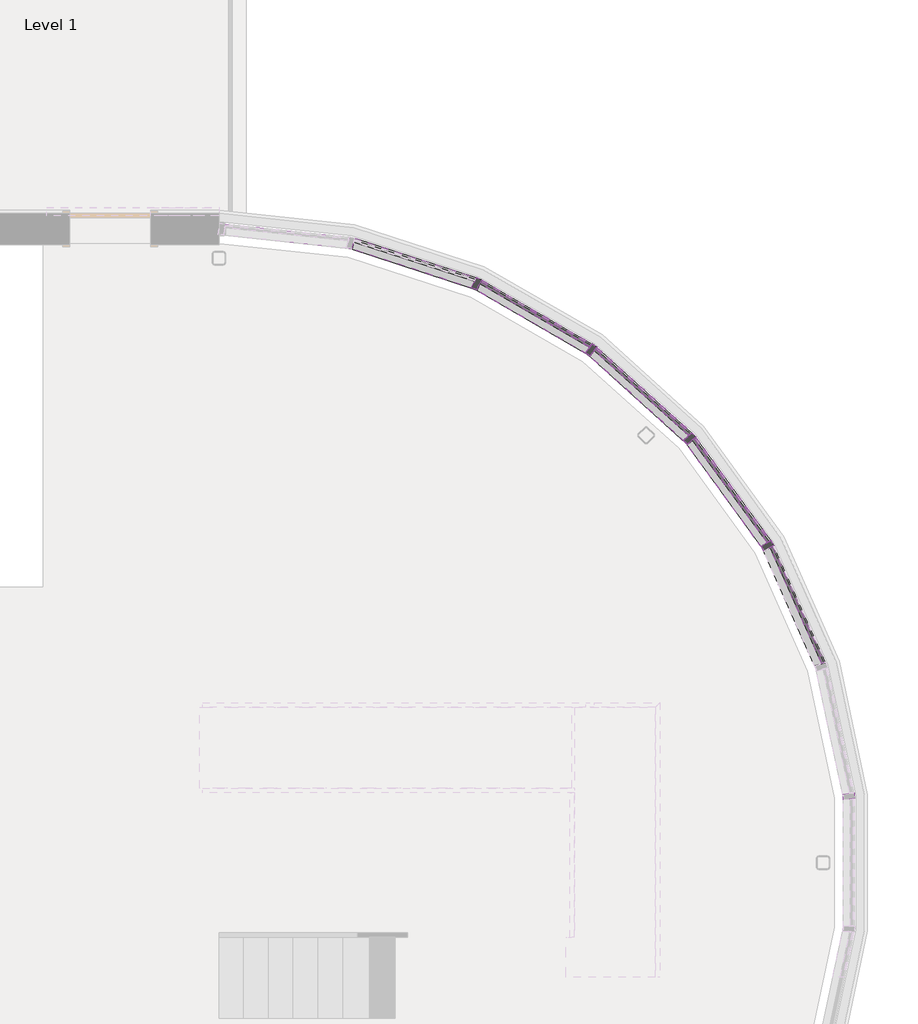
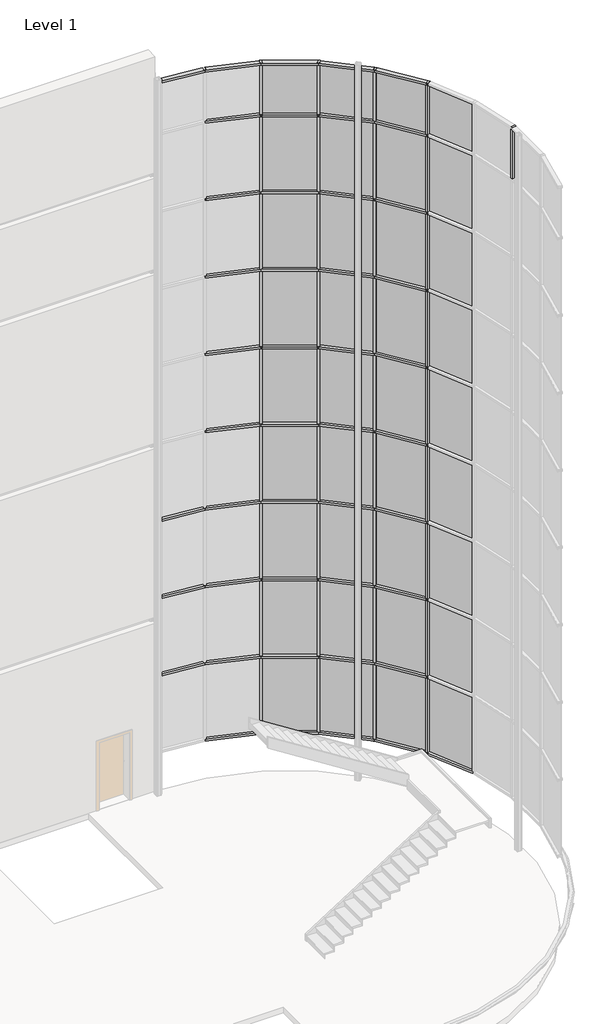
# One storey, part 13 of 16: 82 members, 36 plates.
"""IFC4 building model written with IfcOpenShell, lengths in millimetres."""

from ifc_helpers import new_model, si_unit, origin, place, context, project, spatial, transform, mapped, element, save
from components import member_165ff730, member_45463520, member_408f6c1a, member_1666ebf7, member_f0fea5a5, member_788d4f16, system_panel_glazed_294e175a, system_panel_glazed_36605c35, system_panel_glazed_41a16be2

model = new_model("IFC4")

# Units and contexts
model_context = context("Model", 3, world=origin())
ifc_project = project(units=[si_unit("LENGTHUNIT", "METRE", prefix="MILLI")], contexts=[model_context])

# Site, building, storey
site = spatial("IfcSite", under=ifc_project)
building = spatial("IfcBuilding", under=site)
storey = spatial("IfcBuildingStorey", under=building, Name="Level 1", Elevation=0.0)

# Members
placement = place(None, origin())
member_shape = member_165ff730(model_context)
element("IfcMember", 1, ObjectType="Rectangular Mullion : 2.5\" x 5\" rectangular", at=placement, inside=storey, context=model_context, shape_type="MappedRepresentation", body=[
    mapped(member_shape, transform((16551.9651367, 12415.4009844, 22250.4), x_axis=(0.0, 0.0, 1.0), y_axis=(-0.10452846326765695, -0.994521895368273, 0.0), z_axis=(0.994521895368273, -0.10452846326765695, 0.0))),
])
member_2_shape = member_45463520(model_context)
element("IfcMember", 2, ObjectType="Rectangular Mullion : 2.5\" x 5\" rectangular", at=placement, inside=storey, context=model_context, shape_type="MappedRepresentation", body=[
    mapped(member_2_shape, transform((17972.7540113, 11960.6996033, 22250.4), x_axis=(0.0, 0.0, 1.0), y_axis=(-0.30901699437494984, -0.9510565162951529, 0.0), z_axis=(0.9510565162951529, -0.30901699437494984, 0.0))),
])
element("IfcMember", 3, ObjectType="Rectangular Mullion : 2.5\" x 5\" rectangular", at=placement, inside=storey, context=model_context, shape_type="MappedRepresentation", body=[
    mapped(member_2_shape, transform((19267.9575073, 11220.535921, 22250.4), x_axis=(0.0, 0.0, 1.0), y_axis=(-0.5000000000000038, -0.8660254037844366, 0.0), z_axis=(0.8660254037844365, -0.5000000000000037, 0.0))),
])
element("IfcMember", 4, ObjectType="Rectangular Mullion : 2.5\" x 5\" rectangular", at=placement, inside=storey, context=model_context, shape_type="MappedRepresentation", body=[
    mapped(member_2_shape, transform((20380.9690166, 10227.2586423, 22250.4), x_axis=(0.0, 0.0, 1.0), y_axis=(-0.6691306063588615, -0.7431448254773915, 0.0), z_axis=(0.7431448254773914, -0.6691306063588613, 0.0))),
])
element("IfcMember", 5, ObjectType="Rectangular Mullion : 2.5\" x 5\" rectangular", at=placement, inside=storey, context=model_context, shape_type="MappedRepresentation", body=[
    mapped(member_2_shape, transform((21263.1445956, 9024.2787505, 22250.4), x_axis=(0.0, 0.0, 1.0), y_axis=(-0.8090169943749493, -0.5877852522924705, 0.0), z_axis=(0.5877852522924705, -0.8090169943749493, 0.0))),
])
element("IfcMember", 6, ObjectType="Rectangular Mullion : 2.5\" x 5\" rectangular", at=placement, inside=storey, context=model_context, shape_type="MappedRepresentation", body=[
    mapped(member_2_shape, transform((16613.7372513, 12402.2709161, 1092.2), x_axis=(0.0, 0.0, -1.0), y_axis=(-0.3090169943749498, -0.9510565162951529, 0.0), z_axis=(-0.9510565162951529, 0.3090169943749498, 0.0))),
])
element("IfcMember", 7, ObjectType="Rectangular Mullion : 2.5\" x 5\" rectangular", at=placement, inside=storey, context=model_context, shape_type="MappedRepresentation", body=[
    mapped(member_2_shape, transform((18030.4463623, 11935.0133137, 1092.2), x_axis=(0.0, 0.0, -1.0), y_axis=(-0.500000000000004, -0.8660254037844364, 0.0), z_axis=(-0.8660254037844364, 0.500000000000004, 0.0))),
])
element("IfcMember", 8, ObjectType="Rectangular Mullion : 2.5\" x 5\" rectangular", at=placement, inside=storey, context=model_context, shape_type="MappedRepresentation", body=[
    mapped(member_2_shape, transform((19319.048662, 11183.4160243, 1092.2), x_axis=(0.0, 0.0, -1.0), y_axis=(-0.6691306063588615, -0.7431448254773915, 0.0), z_axis=(-0.7431448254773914, 0.6691306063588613, 0.0))),
])
element("IfcMember", 9, ObjectType="Rectangular Mullion : 2.5\" x 5\" rectangular", at=placement, inside=storey, context=model_context, shape_type="MappedRepresentation", body=[
    mapped(member_2_shape, transform((20423.2260466, 10180.327456, 1092.2), x_axis=(0.0, 0.0, -1.0), y_axis=(-0.8090169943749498, -0.58778525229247, 0.0), z_axis=(-0.5877852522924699, 0.8090169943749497, 0.0))),
])
element("IfcMember", 10, ObjectType="Rectangular Mullion : 2.5\" x 5\" rectangular", at=placement, inside=storey, context=model_context, shape_type="MappedRepresentation", body=[
    mapped(member_2_shape, transform((21294.7206657, 8969.5873926, 1092.2), x_axis=(0.0, 0.0, -1.0), y_axis=(-0.9135454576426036, -0.4067366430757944, 0.0), z_axis=(-0.4067366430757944, 0.9135454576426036, 0.0))),
])
member_3_shape = member_408f6c1a(model_context)
element("IfcMember", 11, ObjectType="Rectangular Mullion : 2.5\" x 5\" rectangular", at=placement, inside=storey, context=model_context, shape_type="MappedRepresentation", body=[
    mapped(member_3_shape, transform((16551.9651367, 12415.4009844, 3530.6), x_axis=(0.0, 0.0, 1.0), y_axis=(-0.10452846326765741, -0.994521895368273, 0.0), z_axis=(0.994521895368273, -0.10452846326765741, 0.0))),
])
element("IfcMember", 12, ObjectType="Rectangular Mullion : 2.5\" x 5\" rectangular", at=placement, inside=storey, context=model_context, shape_type="MappedRepresentation", body=[
    mapped(member_3_shape, transform((16551.9651367, 12415.4009844, 5969.0), x_axis=(0.0, 0.0, 1.0), y_axis=(-0.10452846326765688, -0.9945218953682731, 0.0), z_axis=(0.9945218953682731, -0.10452846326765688, 0.0))),
])
element("IfcMember", 13, ObjectType="Rectangular Mullion : 2.5\" x 5\" rectangular", at=placement, inside=storey, context=model_context, shape_type="MappedRepresentation", body=[
    mapped(member_3_shape, transform((16551.9651367, 12415.4009844, 8407.4), x_axis=(0.0, 0.0, 1.0), y_axis=(-0.10452846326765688, -0.9945218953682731, 0.0), z_axis=(0.9945218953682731, -0.10452846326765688, 0.0))),
])
member_4_shape = member_1666ebf7(model_context)
element("IfcMember", 14, ObjectType="Rectangular Mullion : 2.5\" x 5\" rectangular", at=placement, inside=storey, context=model_context, shape_type="MappedRepresentation", body=[
    mapped(member_4_shape, transform((17972.7540113, 11960.6996033, 3530.6), x_axis=(0.0, 0.0, 1.0), y_axis=(-0.3090169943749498, -0.9510565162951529, 0.0), z_axis=(0.9510565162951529, -0.3090169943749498, 0.0))),
])
element("IfcMember", 15, ObjectType="Rectangular Mullion : 2.5\" x 5\" rectangular", at=placement, inside=storey, context=model_context, shape_type="MappedRepresentation", body=[
    mapped(member_4_shape, transform((19267.9575073, 11220.535921, 3530.6), x_axis=(0.0, 0.0, 1.0), y_axis=(-0.500000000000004, -0.8660254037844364, 0.0), z_axis=(0.8660254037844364, -0.500000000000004, 0.0))),
])
element("IfcMember", 16, ObjectType="Rectangular Mullion : 2.5\" x 5\" rectangular", at=placement, inside=storey, context=model_context, shape_type="MappedRepresentation", body=[
    mapped(member_4_shape, transform((20380.9690166, 10227.2586423, 3530.6), x_axis=(0.0, 0.0, 1.0), y_axis=(-0.6691306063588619, -0.7431448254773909, 0.0), z_axis=(0.7431448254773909, -0.6691306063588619, 0.0))),
])
element("IfcMember", 17, ObjectType="Rectangular Mullion : 2.5\" x 5\" rectangular", at=placement, inside=storey, context=model_context, shape_type="MappedRepresentation", body=[
    mapped(member_4_shape, transform((21263.1445956, 9024.2787505, 3530.6), x_axis=(0.0, 0.0, 1.0), y_axis=(-0.8090169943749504, -0.5877852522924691, 0.0), z_axis=(0.587785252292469, -0.8090169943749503, 0.0))),
])
element("IfcMember", 18, ObjectType="Rectangular Mullion : 2.5\" x 5\" rectangular", at=placement, inside=storey, context=model_context, shape_type="MappedRepresentation", body=[
    mapped(member_4_shape, transform((17972.7540113, 11960.6996033, 5969.0), x_axis=(0.0, 0.0, 1.0), y_axis=(-0.3090169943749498, -0.9510565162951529, 0.0), z_axis=(0.9510565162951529, -0.3090169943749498, 0.0))),
])
element("IfcMember", 19, ObjectType="Rectangular Mullion : 2.5\" x 5\" rectangular", at=placement, inside=storey, context=model_context, shape_type="MappedRepresentation", body=[
    mapped(member_4_shape, transform((19267.9575073, 11220.535921, 5969.0), x_axis=(0.0, 0.0, 1.0), y_axis=(-0.500000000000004, -0.8660254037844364, 0.0), z_axis=(0.8660254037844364, -0.500000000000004, 0.0))),
])
element("IfcMember", 20, ObjectType="Rectangular Mullion : 2.5\" x 5\" rectangular", at=placement, inside=storey, context=model_context, shape_type="MappedRepresentation", body=[
    mapped(member_4_shape, transform((20380.9690166, 10227.2586423, 5969.0), x_axis=(0.0, 0.0, 1.0), y_axis=(-0.6691306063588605, -0.7431448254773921, 0.0), z_axis=(0.7431448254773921, -0.6691306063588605, 0.0))),
])
element("IfcMember", 21, ObjectType="Rectangular Mullion : 2.5\" x 5\" rectangular", at=placement, inside=storey, context=model_context, shape_type="MappedRepresentation", body=[
    mapped(member_4_shape, transform((21263.1445956, 9024.2787505, 5969.0), x_axis=(0.0, 0.0, 1.0), y_axis=(-0.8090169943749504, -0.5877852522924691, 0.0), z_axis=(0.587785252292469, -0.8090169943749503, 0.0))),
])
element("IfcMember", 22, ObjectType="Rectangular Mullion : 2.5\" x 5\" rectangular", at=placement, inside=storey, context=model_context, shape_type="MappedRepresentation", body=[
    mapped(member_4_shape, transform((17972.7540113, 11960.6996033, 8407.4), x_axis=(0.0, 0.0, 1.0), y_axis=(-0.3090169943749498, -0.9510565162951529, 0.0), z_axis=(0.9510565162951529, -0.3090169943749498, 0.0))),
])
element("IfcMember", 23, ObjectType="Rectangular Mullion : 2.5\" x 5\" rectangular", at=placement, inside=storey, context=model_context, shape_type="MappedRepresentation", body=[
    mapped(member_4_shape, transform((19267.9575073, 11220.535921, 8407.4), x_axis=(0.0, 0.0, 1.0), y_axis=(-0.500000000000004, -0.8660254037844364, 0.0), z_axis=(0.8660254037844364, -0.500000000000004, 0.0))),
])
element("IfcMember", 24, ObjectType="Rectangular Mullion : 2.5\" x 5\" rectangular", at=placement, inside=storey, context=model_context, shape_type="MappedRepresentation", body=[
    mapped(member_4_shape, transform((20380.9690166, 10227.2586423, 8407.4), x_axis=(0.0, 0.0, 1.0), y_axis=(-0.6691306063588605, -0.7431448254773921, 0.0), z_axis=(0.7431448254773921, -0.6691306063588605, 0.0))),
])
element("IfcMember", 25, ObjectType="Rectangular Mullion : 2.5\" x 5\" rectangular", at=placement, inside=storey, context=model_context, shape_type="MappedRepresentation", body=[
    mapped(member_4_shape, transform((21263.1445956, 9024.2787505, 8407.4), x_axis=(0.0, 0.0, 1.0), y_axis=(-0.8090169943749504, -0.5877852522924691, 0.0), z_axis=(0.587785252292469, -0.8090169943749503, 0.0))),
])
element("IfcMember", 26, ObjectType="Rectangular Mullion : 2.5\" x 5\" rectangular", at=placement, inside=storey, context=model_context, shape_type="MappedRepresentation", body=[
    mapped(member_4_shape, transform((17972.7540113, 11960.6996033, 10845.8), x_axis=(0.0, 0.0, 1.0), y_axis=(-0.3090169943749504, -0.9510565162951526, 0.0), z_axis=(0.9510565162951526, -0.3090169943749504, 0.0))),
])
element("IfcMember", 27, ObjectType="Rectangular Mullion : 2.5\" x 5\" rectangular", at=placement, inside=storey, context=model_context, shape_type="MappedRepresentation", body=[
    mapped(member_4_shape, transform((19267.9575073, 11220.535921, 10845.8), x_axis=(0.0, 0.0, 1.0), y_axis=(-0.500000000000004, -0.8660254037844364, 0.0), z_axis=(0.8660254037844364, -0.500000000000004, 0.0))),
])
element("IfcMember", 28, ObjectType="Rectangular Mullion : 2.5\" x 5\" rectangular", at=placement, inside=storey, context=model_context, shape_type="MappedRepresentation", body=[
    mapped(member_4_shape, transform((20380.9690166, 10227.2586423, 10845.8), x_axis=(0.0, 0.0, 1.0), y_axis=(-0.6691306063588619, -0.7431448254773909, 0.0), z_axis=(0.7431448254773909, -0.6691306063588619, 0.0))),
])
element("IfcMember", 29, ObjectType="Rectangular Mullion : 2.5\" x 5\" rectangular", at=placement, inside=storey, context=model_context, shape_type="MappedRepresentation", body=[
    mapped(member_4_shape, transform((21263.1445956, 9024.2787505, 10845.8), x_axis=(0.0, 0.0, 1.0), y_axis=(-0.8090169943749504, -0.5877852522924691, 0.0), z_axis=(0.587785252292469, -0.8090169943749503, 0.0))),
])
element("IfcMember", 30, ObjectType="Rectangular Mullion : 2.5\" x 5\" rectangular", at=placement, inside=storey, context=model_context, shape_type="MappedRepresentation", body=[
    mapped(member_4_shape, transform((17972.7540113, 11960.6996033, 13284.2), x_axis=(0.0, 0.0, 1.0), y_axis=(-0.3090169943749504, -0.9510565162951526, 0.0), z_axis=(0.9510565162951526, -0.3090169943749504, 0.0))),
])
element("IfcMember", 31, ObjectType="Rectangular Mullion : 2.5\" x 5\" rectangular", at=placement, inside=storey, context=model_context, shape_type="MappedRepresentation", body=[
    mapped(member_4_shape, transform((19267.9575073, 11220.535921, 13284.2), x_axis=(0.0, 0.0, 1.0), y_axis=(-0.500000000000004, -0.8660254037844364, 0.0), z_axis=(0.8660254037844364, -0.500000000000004, 0.0))),
])
element("IfcMember", 32, ObjectType="Rectangular Mullion : 2.5\" x 5\" rectangular", at=placement, inside=storey, context=model_context, shape_type="MappedRepresentation", body=[
    mapped(member_4_shape, transform((20380.9690166, 10227.2586423, 13284.2), x_axis=(0.0, 0.0, 1.0), y_axis=(-0.6691306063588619, -0.7431448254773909, 0.0), z_axis=(0.7431448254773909, -0.6691306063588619, 0.0))),
])
element("IfcMember", 33, ObjectType="Rectangular Mullion : 2.5\" x 5\" rectangular", at=placement, inside=storey, context=model_context, shape_type="MappedRepresentation", body=[
    mapped(member_4_shape, transform((21263.1445956, 9024.2787505, 13284.2), x_axis=(0.0, 0.0, 1.0), y_axis=(-0.8090169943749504, -0.5877852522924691, 0.0), z_axis=(0.587785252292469, -0.8090169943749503, 0.0))),
])
element("IfcMember", 34, ObjectType="Rectangular Mullion : 2.5\" x 5\" rectangular", at=placement, inside=storey, context=model_context, shape_type="MappedRepresentation", body=[
    mapped(member_4_shape, transform((17972.7540113, 11960.6996033, 15722.6), x_axis=(0.0, 0.0, 1.0), y_axis=(-0.3090169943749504, -0.9510565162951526, 0.0), z_axis=(0.9510565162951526, -0.3090169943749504, 0.0))),
])
element("IfcMember", 35, ObjectType="Rectangular Mullion : 2.5\" x 5\" rectangular", at=placement, inside=storey, context=model_context, shape_type="MappedRepresentation", body=[
    mapped(member_4_shape, transform((19267.9575073, 11220.535921, 15722.6), x_axis=(0.0, 0.0, 1.0), y_axis=(-0.500000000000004, -0.8660254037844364, 0.0), z_axis=(0.8660254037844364, -0.500000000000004, 0.0))),
])
element("IfcMember", 36, ObjectType="Rectangular Mullion : 2.5\" x 5\" rectangular", at=placement, inside=storey, context=model_context, shape_type="MappedRepresentation", body=[
    mapped(member_4_shape, transform((20380.9690166, 10227.2586423, 15722.6), x_axis=(0.0, 0.0, 1.0), y_axis=(-0.6691306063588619, -0.7431448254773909, 0.0), z_axis=(0.7431448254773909, -0.6691306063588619, 0.0))),
])
element("IfcMember", 37, ObjectType="Rectangular Mullion : 2.5\" x 5\" rectangular", at=placement, inside=storey, context=model_context, shape_type="MappedRepresentation", body=[
    mapped(member_4_shape, transform((21263.1445956, 9024.2787505, 15722.6), x_axis=(0.0, 0.0, 1.0), y_axis=(-0.8090169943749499, -0.5877852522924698, 0.0), z_axis=(0.5877852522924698, -0.8090169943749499, 0.0))),
])
element("IfcMember", 38, ObjectType="Rectangular Mullion : 2.5\" x 5\" rectangular", at=placement, inside=storey, context=model_context, shape_type="MappedRepresentation", body=[
    mapped(member_4_shape, transform((17972.7540113, 11960.6996033, 18161.0), x_axis=(0.0, 0.0, 1.0), y_axis=(-0.3090169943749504, -0.9510565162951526, 0.0), z_axis=(0.9510565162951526, -0.3090169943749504, 0.0))),
])
element("IfcMember", 39, ObjectType="Rectangular Mullion : 2.5\" x 5\" rectangular", at=placement, inside=storey, context=model_context, shape_type="MappedRepresentation", body=[
    mapped(member_4_shape, transform((19267.9575073, 11220.535921, 18161.0), x_axis=(0.0, 0.0, 1.0), y_axis=(-0.500000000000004, -0.8660254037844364, 0.0), z_axis=(0.8660254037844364, -0.500000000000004, 0.0))),
])
element("IfcMember", 40, ObjectType="Rectangular Mullion : 2.5\" x 5\" rectangular", at=placement, inside=storey, context=model_context, shape_type="MappedRepresentation", body=[
    mapped(member_4_shape, transform((20380.9690166, 10227.2586423, 18161.0), x_axis=(0.0, 0.0, 1.0), y_axis=(-0.6691306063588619, -0.7431448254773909, 0.0), z_axis=(0.7431448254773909, -0.6691306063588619, 0.0))),
])
element("IfcMember", 41, ObjectType="Rectangular Mullion : 2.5\" x 5\" rectangular", at=placement, inside=storey, context=model_context, shape_type="MappedRepresentation", body=[
    mapped(member_4_shape, transform((21263.1445956, 9024.2787505, 18161.0), x_axis=(0.0, 0.0, 1.0), y_axis=(-0.8090169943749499, -0.5877852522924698, 0.0), z_axis=(0.5877852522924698, -0.8090169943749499, 0.0))),
])
element("IfcMember", 42, ObjectType="Rectangular Mullion : 2.5\" x 5\" rectangular", at=placement, inside=storey, context=model_context, shape_type="MappedRepresentation", body=[
    mapped(member_4_shape, transform((17972.7540113, 11960.6996033, 20599.4), x_axis=(0.0, 0.0, 1.0), y_axis=(-0.3090169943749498, -0.9510565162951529, 0.0), z_axis=(0.9510565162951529, -0.3090169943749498, 0.0))),
])
element("IfcMember", 43, ObjectType="Rectangular Mullion : 2.5\" x 5\" rectangular", at=placement, inside=storey, context=model_context, shape_type="MappedRepresentation", body=[
    mapped(member_4_shape, transform((19267.9575073, 11220.535921, 20599.4), x_axis=(0.0, 0.0, 1.0), y_axis=(-0.500000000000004, -0.8660254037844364, 0.0), z_axis=(0.8660254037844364, -0.500000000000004, 0.0))),
])
element("IfcMember", 44, ObjectType="Rectangular Mullion : 2.5\" x 5\" rectangular", at=placement, inside=storey, context=model_context, shape_type="MappedRepresentation", body=[
    mapped(member_4_shape, transform((20380.9690166, 10227.2586423, 20599.4), x_axis=(0.0, 0.0, 1.0), y_axis=(-0.6691306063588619, -0.7431448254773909, 0.0), z_axis=(0.7431448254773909, -0.6691306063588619, 0.0))),
])
element("IfcMember", 45, ObjectType="Rectangular Mullion : 2.5\" x 5\" rectangular", at=placement, inside=storey, context=model_context, shape_type="MappedRepresentation", body=[
    mapped(member_4_shape, transform((21263.1445956, 9024.2787505, 20599.4), x_axis=(0.0, 0.0, 1.0), y_axis=(-0.8090169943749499, -0.5877852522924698, 0.0), z_axis=(0.5877852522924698, -0.8090169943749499, 0.0))),
])
member_5_shape = member_f0fea5a5(model_context)
element("IfcMember", 46, ObjectType="Rectangular Mullion : 2.5\" x 5\" rectangular", at=placement, inside=storey, context=model_context, shape_type="MappedRepresentation", body=[
    mapped(member_5_shape, transform((18002.9500557, 11950.8883137, 1092.2), x_axis=(0.913545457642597, -0.40673664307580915, 0.0), y_axis=(-0.40673664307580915, -0.913545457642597, 0.0), z_axis=(0.0, 0.0, -1.0))),
])
element("IfcMember", 47, ObjectType="Rectangular Mullion : 2.5\" x 5\" rectangular", at=placement, inside=storey, context=model_context, shape_type="MappedRepresentation", body=[
    mapped(member_5_shape, transform((19295.4538138, 11204.660921, 1092.2), x_axis=(0.809016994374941, -0.587785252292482, 0.0), y_axis=(-0.587785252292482, -0.809016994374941, 0.0), z_axis=(0.0, 0.0, -1.0))),
])
element("IfcMember", 48, ObjectType="Rectangular Mullion : 2.5\" x 5\" rectangular", at=placement, inside=storey, context=model_context, shape_type="MappedRepresentation", body=[
    mapped(member_5_shape, transform((20404.5638648, 10206.0137456, 1092.2), x_axis=(0.6691306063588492, -0.7431448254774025, 0.0), y_axis=(-0.7431448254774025, -0.6691306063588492, 0.0), z_axis=(0.0, 0.0, -1.0))),
])
element("IfcMember", 49, ObjectType="Rectangular Mullion : 2.5\" x 5\" rectangular", at=placement, inside=storey, context=model_context, shape_type="MappedRepresentation", body=[
    mapped(member_5_shape, transform((21281.8067773, 8998.5924609, 1092.2), x_axis=(0.49999999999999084, -0.866025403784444, 0.0), y_axis=(-0.866025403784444, -0.49999999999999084, 0.0), z_axis=(0.0, 0.0, -1.0))),
])
element("IfcMember", 50, ObjectType="Rectangular Mullion : 2.5\" x 5\" rectangular", at=placement, inside=storey, context=model_context, shape_type="MappedRepresentation", body=[
    mapped(member_5_shape, transform((18002.9500557, 11950.8883137, 3530.6), x_axis=(0.913545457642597, -0.40673664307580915, 0.0), y_axis=(-0.40673664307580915, -0.913545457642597, 0.0), z_axis=(0.0, 0.0, -1.0))),
])
element("IfcMember", 51, ObjectType="Rectangular Mullion : 2.5\" x 5\" rectangular", at=placement, inside=storey, context=model_context, shape_type="MappedRepresentation", body=[
    mapped(member_5_shape, transform((19295.4538138, 11204.660921, 3530.6), x_axis=(0.809016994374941, -0.587785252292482, 0.0), y_axis=(-0.587785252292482, -0.809016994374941, 0.0), z_axis=(0.0, 0.0, -1.0))),
])
element("IfcMember", 52, ObjectType="Rectangular Mullion : 2.5\" x 5\" rectangular", at=placement, inside=storey, context=model_context, shape_type="MappedRepresentation", body=[
    mapped(member_5_shape, transform((20404.5638648, 10206.0137456, 3530.6), x_axis=(0.6691306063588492, -0.7431448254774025, 0.0), y_axis=(-0.7431448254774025, -0.6691306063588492, 0.0), z_axis=(0.0, 0.0, -1.0))),
])
element("IfcMember", 53, ObjectType="Rectangular Mullion : 2.5\" x 5\" rectangular", at=placement, inside=storey, context=model_context, shape_type="MappedRepresentation", body=[
    mapped(member_5_shape, transform((21281.8067773, 8998.5924609, 3530.6), x_axis=(0.49999999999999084, -0.866025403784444, 0.0), y_axis=(-0.866025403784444, -0.49999999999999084, 0.0), z_axis=(0.0, 0.0, -1.0))),
])
element("IfcMember", 54, ObjectType="Rectangular Mullion : 2.5\" x 5\" rectangular", at=placement, inside=storey, context=model_context, shape_type="MappedRepresentation", body=[
    mapped(member_5_shape, transform((18002.9500557, 11950.8883137, 5969.0), x_axis=(0.913545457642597, -0.40673664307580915, 0.0), y_axis=(-0.40673664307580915, -0.913545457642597, 0.0), z_axis=(0.0, 0.0, -1.0))),
])
element("IfcMember", 55, ObjectType="Rectangular Mullion : 2.5\" x 5\" rectangular", at=placement, inside=storey, context=model_context, shape_type="MappedRepresentation", body=[
    mapped(member_5_shape, transform((19295.4538138, 11204.660921, 5969.0), x_axis=(0.809016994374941, -0.587785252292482, 0.0), y_axis=(-0.587785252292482, -0.809016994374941, 0.0), z_axis=(0.0, 0.0, -1.0))),
])
element("IfcMember", 56, ObjectType="Rectangular Mullion : 2.5\" x 5\" rectangular", at=placement, inside=storey, context=model_context, shape_type="MappedRepresentation", body=[
    mapped(member_5_shape, transform((20404.5638648, 10206.0137456, 5969.0), x_axis=(0.6691306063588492, -0.7431448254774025, 0.0), y_axis=(-0.7431448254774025, -0.6691306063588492, 0.0), z_axis=(0.0, 0.0, -1.0))),
])
element("IfcMember", 57, ObjectType="Rectangular Mullion : 2.5\" x 5\" rectangular", at=placement, inside=storey, context=model_context, shape_type="MappedRepresentation", body=[
    mapped(member_5_shape, transform((21281.8067773, 8998.5924609, 5969.0), x_axis=(0.49999999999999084, -0.866025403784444, 0.0), y_axis=(-0.866025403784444, -0.49999999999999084, 0.0), z_axis=(0.0, 0.0, -1.0))),
])
element("IfcMember", 58, ObjectType="Rectangular Mullion : 2.5\" x 5\" rectangular", at=placement, inside=storey, context=model_context, shape_type="MappedRepresentation", body=[
    mapped(member_5_shape, transform((18002.9500557, 11950.8883137, 8407.4), x_axis=(0.913545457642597, -0.40673664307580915, 0.0), y_axis=(-0.40673664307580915, -0.913545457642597, 0.0), z_axis=(0.0, 0.0, -1.0))),
])
element("IfcMember", 59, ObjectType="Rectangular Mullion : 2.5\" x 5\" rectangular", at=placement, inside=storey, context=model_context, shape_type="MappedRepresentation", body=[
    mapped(member_5_shape, transform((19295.4538138, 11204.660921, 8407.4), x_axis=(0.809016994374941, -0.587785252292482, 0.0), y_axis=(-0.587785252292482, -0.809016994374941, 0.0), z_axis=(0.0, 0.0, -1.0))),
])
element("IfcMember", 60, ObjectType="Rectangular Mullion : 2.5\" x 5\" rectangular", at=placement, inside=storey, context=model_context, shape_type="MappedRepresentation", body=[
    mapped(member_5_shape, transform((20404.5638648, 10206.0137456, 8407.4), x_axis=(0.6691306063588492, -0.7431448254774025, 0.0), y_axis=(-0.7431448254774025, -0.6691306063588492, 0.0), z_axis=(0.0, 0.0, -1.0))),
])
element("IfcMember", 61, ObjectType="Rectangular Mullion : 2.5\" x 5\" rectangular", at=placement, inside=storey, context=model_context, shape_type="MappedRepresentation", body=[
    mapped(member_5_shape, transform((21281.8067773, 8998.5924609, 8407.4), x_axis=(0.49999999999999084, -0.866025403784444, 0.0), y_axis=(-0.866025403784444, -0.49999999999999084, 0.0), z_axis=(0.0, 0.0, -1.0))),
])
element("IfcMember", 62, ObjectType="Rectangular Mullion : 2.5\" x 5\" rectangular", at=placement, inside=storey, context=model_context, shape_type="MappedRepresentation", body=[
    mapped(member_5_shape, transform((18002.9500557, 11950.8883137, 10845.8), x_axis=(0.9135454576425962, -0.40673664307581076, 0.0), y_axis=(-0.40673664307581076, -0.9135454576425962, 0.0), z_axis=(0.0, 0.0, -1.0))),
])
element("IfcMember", 63, ObjectType="Rectangular Mullion : 2.5\" x 5\" rectangular", at=placement, inside=storey, context=model_context, shape_type="MappedRepresentation", body=[
    mapped(member_5_shape, transform((19295.4538138, 11204.660921, 10845.8), x_axis=(0.809016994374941, -0.587785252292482, 0.0), y_axis=(-0.587785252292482, -0.809016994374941, 0.0), z_axis=(0.0, 0.0, -1.0))),
])
element("IfcMember", 64, ObjectType="Rectangular Mullion : 2.5\" x 5\" rectangular", at=placement, inside=storey, context=model_context, shape_type="MappedRepresentation", body=[
    mapped(member_5_shape, transform((20404.5638648, 10206.0137456, 10845.8), x_axis=(0.6691306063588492, -0.7431448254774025, 0.0), y_axis=(-0.7431448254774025, -0.6691306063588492, 0.0), z_axis=(0.0, 0.0, -1.0))),
])
element("IfcMember", 65, ObjectType="Rectangular Mullion : 2.5\" x 5\" rectangular", at=placement, inside=storey, context=model_context, shape_type="MappedRepresentation", body=[
    mapped(member_5_shape, transform((21281.8067773, 8998.5924609, 10845.8), x_axis=(0.49999999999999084, -0.866025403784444, 0.0), y_axis=(-0.866025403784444, -0.49999999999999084, 0.0), z_axis=(0.0, 0.0, -1.0))),
])
element("IfcMember", 66, ObjectType="Rectangular Mullion : 2.5\" x 5\" rectangular", at=placement, inside=storey, context=model_context, shape_type="MappedRepresentation", body=[
    mapped(member_5_shape, transform((18002.9500557, 11950.8883137, 13284.2), x_axis=(0.9135454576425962, -0.40673664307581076, 0.0), y_axis=(-0.40673664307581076, -0.9135454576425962, 0.0), z_axis=(0.0, 0.0, -1.0))),
])
element("IfcMember", 67, ObjectType="Rectangular Mullion : 2.5\" x 5\" rectangular", at=placement, inside=storey, context=model_context, shape_type="MappedRepresentation", body=[
    mapped(member_5_shape, transform((19295.4538138, 11204.660921, 13284.2), x_axis=(0.809016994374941, -0.587785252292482, 0.0), y_axis=(-0.587785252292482, -0.809016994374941, 0.0), z_axis=(0.0, 0.0, -1.0))),
])
element("IfcMember", 68, ObjectType="Rectangular Mullion : 2.5\" x 5\" rectangular", at=placement, inside=storey, context=model_context, shape_type="MappedRepresentation", body=[
    mapped(member_5_shape, transform((20404.5638648, 10206.0137456, 13284.2), x_axis=(0.6691306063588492, -0.7431448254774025, 0.0), y_axis=(-0.7431448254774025, -0.6691306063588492, 0.0), z_axis=(0.0, 0.0, -1.0))),
])
element("IfcMember", 69, ObjectType="Rectangular Mullion : 2.5\" x 5\" rectangular", at=placement, inside=storey, context=model_context, shape_type="MappedRepresentation", body=[
    mapped(member_5_shape, transform((21281.8067773, 8998.5924609, 13284.2), x_axis=(0.49999999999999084, -0.866025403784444, 0.0), y_axis=(-0.866025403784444, -0.49999999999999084, 0.0), z_axis=(0.0, 0.0, -1.0))),
])
element("IfcMember", 70, ObjectType="Rectangular Mullion : 2.5\" x 5\" rectangular", at=placement, inside=storey, context=model_context, shape_type="MappedRepresentation", body=[
    mapped(member_5_shape, transform((18002.9500557, 11950.8883137, 15722.6), x_axis=(0.9135454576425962, -0.40673664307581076, 0.0), y_axis=(-0.40673664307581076, -0.9135454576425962, 0.0), z_axis=(0.0, 0.0, -1.0))),
])
element("IfcMember", 71, ObjectType="Rectangular Mullion : 2.5\" x 5\" rectangular", at=placement, inside=storey, context=model_context, shape_type="MappedRepresentation", body=[
    mapped(member_5_shape, transform((19295.4538138, 11204.660921, 15722.6), x_axis=(0.809016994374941, -0.587785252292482, 0.0), y_axis=(-0.587785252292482, -0.809016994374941, 0.0), z_axis=(0.0, 0.0, -1.0))),
])
element("IfcMember", 72, ObjectType="Rectangular Mullion : 2.5\" x 5\" rectangular", at=placement, inside=storey, context=model_context, shape_type="MappedRepresentation", body=[
    mapped(member_5_shape, transform((20404.5638648, 10206.0137456, 15722.6), x_axis=(0.6691306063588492, -0.7431448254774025, 0.0), y_axis=(-0.7431448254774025, -0.6691306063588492, 0.0), z_axis=(0.0, 0.0, -1.0))),
])
element("IfcMember", 73, ObjectType="Rectangular Mullion : 2.5\" x 5\" rectangular", at=placement, inside=storey, context=model_context, shape_type="MappedRepresentation", body=[
    mapped(member_5_shape, transform((21281.8067773, 8998.5924609, 15722.6), x_axis=(0.49999999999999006, -0.8660254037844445, 0.0), y_axis=(-0.8660254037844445, -0.49999999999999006, 0.0), z_axis=(0.0, 0.0, -1.0))),
])
element("IfcMember", 74, ObjectType="Rectangular Mullion : 2.5\" x 5\" rectangular", at=placement, inside=storey, context=model_context, shape_type="MappedRepresentation", body=[
    mapped(member_5_shape, transform((18002.9500557, 11950.8883137, 18161.0), x_axis=(0.9135454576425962, -0.40673664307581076, 0.0), y_axis=(-0.40673664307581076, -0.9135454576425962, 0.0), z_axis=(0.0, 0.0, -1.0))),
])
element("IfcMember", 75, ObjectType="Rectangular Mullion : 2.5\" x 5\" rectangular", at=placement, inside=storey, context=model_context, shape_type="MappedRepresentation", body=[
    mapped(member_5_shape, transform((19295.4538138, 11204.660921, 18161.0), x_axis=(0.809016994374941, -0.587785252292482, 0.0), y_axis=(-0.587785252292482, -0.809016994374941, 0.0), z_axis=(0.0, 0.0, -1.0))),
])
element("IfcMember", 76, ObjectType="Rectangular Mullion : 2.5\" x 5\" rectangular", at=placement, inside=storey, context=model_context, shape_type="MappedRepresentation", body=[
    mapped(member_5_shape, transform((20404.5638648, 10206.0137456, 18161.0), x_axis=(0.6691306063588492, -0.7431448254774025, 0.0), y_axis=(-0.7431448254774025, -0.6691306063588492, 0.0), z_axis=(0.0, 0.0, -1.0))),
])
element("IfcMember", 77, ObjectType="Rectangular Mullion : 2.5\" x 5\" rectangular", at=placement, inside=storey, context=model_context, shape_type="MappedRepresentation", body=[
    mapped(member_5_shape, transform((21281.8067773, 8998.5924609, 18161.0), x_axis=(0.49999999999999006, -0.8660254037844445, 0.0), y_axis=(-0.8660254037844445, -0.49999999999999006, 0.0), z_axis=(0.0, 0.0, -1.0))),
])
member_6_shape = member_788d4f16(model_context)
element("IfcMember", 78, ObjectType="Rectangular Mullion : 2.5\" x 5\" rectangular", at=placement, inside=storey, context=model_context, shape_type="MappedRepresentation", body=[
    mapped(member_6_shape, transform((18002.9500557, 11950.8883137, 20599.4), x_axis=(0.9135454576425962, -0.40673664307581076, 0.0), y_axis=(-0.40673664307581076, -0.9135454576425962, 0.0), z_axis=(0.0, 0.0, -1.0))),
])
element("IfcMember", 79, ObjectType="Rectangular Mullion : 2.5\" x 5\" rectangular", at=placement, inside=storey, context=model_context, shape_type="MappedRepresentation", body=[
    mapped(member_6_shape, transform((19295.4538138, 11204.660921, 20599.4), x_axis=(0.809016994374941, -0.587785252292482, 0.0), y_axis=(-0.587785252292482, -0.809016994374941, 0.0), z_axis=(0.0, 0.0, -1.0))),
])
element("IfcMember", 80, ObjectType="Rectangular Mullion : 2.5\" x 5\" rectangular", at=placement, inside=storey, context=model_context, shape_type="MappedRepresentation", body=[
    mapped(member_6_shape, transform((20404.5638648, 10206.0137456, 20599.4), x_axis=(0.6691306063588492, -0.7431448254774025, 0.0), y_axis=(-0.7431448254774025, -0.6691306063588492, 0.0), z_axis=(0.0, 0.0, -1.0))),
])
element("IfcMember", 81, ObjectType="Rectangular Mullion : 2.5\" x 5\" rectangular", at=placement, inside=storey, context=model_context, shape_type="MappedRepresentation", body=[
    mapped(member_6_shape, transform((21281.8067773, 8998.5924609, 20599.4), x_axis=(0.49999999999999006, -0.8660254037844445, 0.0), y_axis=(-0.8660254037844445, -0.49999999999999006, 0.0), z_axis=(0.0, 0.0, -1.0))),
])
element("IfcMember", 82, ObjectType="Rectangular Mullion : 2.5\" x 5\" rectangular", at=placement, inside=storey, context=model_context, shape_type="MappedRepresentation", body=[
    mapped(member_6_shape, transform((22199.1416245, 6175.3261036, 20599.4), x_axis=(0.10452846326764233, -0.9945218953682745, 0.0), y_axis=(-0.9945218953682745, -0.10452846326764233, 0.0), z_axis=(0.0, 0.0, -1.0))),
])

# Plates
system_panel_glazed_shape = system_panel_glazed_294e175a(model_context)
element("IfcPlate", 83, ObjectType="System Panel : Glazed", at=placement, inside=storey, context=model_context, shape_type="MappedRepresentation", body=[
    mapped(system_panel_glazed_shape, transform((18649.2019348, 11577.7746174, 1155.7), x_axis=(0.8660254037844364, -0.500000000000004, 0.0), y_axis=(0.500000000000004, 0.8660254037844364, 0.0), z_axis=(0.0, 0.0, 1.0))),
])
element("IfcPlate", 84, ObjectType="System Panel : Glazed", at=placement, inside=storey, context=model_context, shape_type="MappedRepresentation", body=[
    mapped(system_panel_glazed_shape, transform((19850.0088393, 10705.3373333, 1155.7), x_axis=(0.7431448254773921, -0.6691306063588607, 0.0), y_axis=(0.6691306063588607, 0.7431448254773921, 0.0), z_axis=(0.0, 0.0, 1.0))),
])
element("IfcPlate", 85, ObjectType="System Panel : Glazed", at=placement, inside=storey, context=model_context, shape_type="MappedRepresentation", body=[
    mapped(system_panel_glazed_shape, transform((20843.1853211, 9602.3031032, 1155.7), x_axis=(0.5877852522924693, -0.8090169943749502, 0.0), y_axis=(0.8090169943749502, 0.5877852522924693, 0.0), z_axis=(0.0, 0.0, 1.0))),
])
element("IfcPlate", 86, ObjectType="System Panel : Glazed", at=placement, inside=storey, context=model_context, shape_type="MappedRepresentation", body=[
    mapped(system_panel_glazed_shape, transform((21585.324802, 8316.879816, 1155.7), x_axis=(0.4067366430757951, -0.9135454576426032, 0.0), y_axis=(0.9135454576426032, 0.4067366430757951, 0.0), z_axis=(0.0, 0.0, 1.0))),
])
system_panel_glazed_2_shape = system_panel_glazed_36605c35(model_context)
element("IfcPlate", 87, ObjectType="System Panel : Glazed", at=placement, inside=storey, context=model_context, shape_type="MappedRepresentation", body=[
    mapped(system_panel_glazed_2_shape, transform((18649.2019348, 11577.7746174, 3562.35), x_axis=(0.8660254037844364, -0.500000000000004, 0.0), y_axis=(0.500000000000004, 0.8660254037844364, 0.0), z_axis=(0.0, 0.0, 1.0))),
])
element("IfcPlate", 88, ObjectType="System Panel : Glazed", at=placement, inside=storey, context=model_context, shape_type="MappedRepresentation", body=[
    mapped(system_panel_glazed_2_shape, transform((19850.0088393, 10705.3373333, 3562.35), x_axis=(0.7431448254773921, -0.6691306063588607, 0.0), y_axis=(0.6691306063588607, 0.7431448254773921, 0.0), z_axis=(0.0, 0.0, 1.0))),
])
element("IfcPlate", 89, ObjectType="System Panel : Glazed", at=placement, inside=storey, context=model_context, shape_type="MappedRepresentation", body=[
    mapped(system_panel_glazed_2_shape, transform((20843.1853211, 9602.3031032, 3562.35), x_axis=(0.5877852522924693, -0.8090169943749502, 0.0), y_axis=(0.8090169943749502, 0.5877852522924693, 0.0), z_axis=(0.0, 0.0, 1.0))),
])
element("IfcPlate", 90, ObjectType="System Panel : Glazed", at=placement, inside=storey, context=model_context, shape_type="MappedRepresentation", body=[
    mapped(system_panel_glazed_2_shape, transform((21585.324802, 8316.879816, 3562.35), x_axis=(0.4067366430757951, -0.9135454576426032, 0.0), y_axis=(0.9135454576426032, 0.4067366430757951, 0.0), z_axis=(0.0, 0.0, 1.0))),
])
element("IfcPlate", 91, ObjectType="System Panel : Glazed", at=placement, inside=storey, context=model_context, shape_type="MappedRepresentation", body=[
    mapped(system_panel_glazed_2_shape, transform((18649.2019348, 11577.7746174, 6000.75), x_axis=(0.8660254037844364, -0.500000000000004, 0.0), y_axis=(0.500000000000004, 0.8660254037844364, 0.0), z_axis=(0.0, 0.0, 1.0))),
])
element("IfcPlate", 92, ObjectType="System Panel : Glazed", at=placement, inside=storey, context=model_context, shape_type="MappedRepresentation", body=[
    mapped(system_panel_glazed_2_shape, transform((19850.0088393, 10705.3373333, 6000.75), x_axis=(0.7431448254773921, -0.6691306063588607, 0.0), y_axis=(0.6691306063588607, 0.7431448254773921, 0.0), z_axis=(0.0, 0.0, 1.0))),
])
element("IfcPlate", 93, ObjectType="System Panel : Glazed", at=placement, inside=storey, context=model_context, shape_type="MappedRepresentation", body=[
    mapped(system_panel_glazed_2_shape, transform((20843.1853211, 9602.3031032, 6000.75), x_axis=(0.5877852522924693, -0.8090169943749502, 0.0), y_axis=(0.8090169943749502, 0.5877852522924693, 0.0), z_axis=(0.0, 0.0, 1.0))),
])
element("IfcPlate", 94, ObjectType="System Panel : Glazed", at=placement, inside=storey, context=model_context, shape_type="MappedRepresentation", body=[
    mapped(system_panel_glazed_2_shape, transform((21585.324802, 8316.879816, 6000.75), x_axis=(0.4067366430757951, -0.9135454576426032, 0.0), y_axis=(0.9135454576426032, 0.4067366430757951, 0.0), z_axis=(0.0, 0.0, 1.0))),
])
element("IfcPlate", 95, ObjectType="System Panel : Glazed", at=placement, inside=storey, context=model_context, shape_type="MappedRepresentation", body=[
    mapped(system_panel_glazed_2_shape, transform((18649.2019348, 11577.7746174, 8439.15), x_axis=(0.8660254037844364, -0.500000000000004, 0.0), y_axis=(0.500000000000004, 0.8660254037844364, 0.0), z_axis=(0.0, 0.0, 1.0))),
])
element("IfcPlate", 96, ObjectType="System Panel : Glazed", at=placement, inside=storey, context=model_context, shape_type="MappedRepresentation", body=[
    mapped(system_panel_glazed_2_shape, transform((19850.0088393, 10705.3373333, 8439.15), x_axis=(0.7431448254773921, -0.6691306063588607, 0.0), y_axis=(0.6691306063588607, 0.7431448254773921, 0.0), z_axis=(0.0, 0.0, 1.0))),
])
element("IfcPlate", 97, ObjectType="System Panel : Glazed", at=placement, inside=storey, context=model_context, shape_type="MappedRepresentation", body=[
    mapped(system_panel_glazed_2_shape, transform((20843.1853211, 9602.3031032, 8439.15), x_axis=(0.5877852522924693, -0.8090169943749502, 0.0), y_axis=(0.8090169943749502, 0.5877852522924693, 0.0), z_axis=(0.0, 0.0, 1.0))),
])
element("IfcPlate", 98, ObjectType="System Panel : Glazed", at=placement, inside=storey, context=model_context, shape_type="MappedRepresentation", body=[
    mapped(system_panel_glazed_2_shape, transform((21585.324802, 8316.879816, 8439.15), x_axis=(0.4067366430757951, -0.9135454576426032, 0.0), y_axis=(0.9135454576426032, 0.4067366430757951, 0.0), z_axis=(0.0, 0.0, 1.0))),
])
element("IfcPlate", 99, ObjectType="System Panel : Glazed", at=placement, inside=storey, context=model_context, shape_type="MappedRepresentation", body=[
    mapped(system_panel_glazed_2_shape, transform((18649.2019348, 11577.7746174, 10877.55), x_axis=(0.8660254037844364, -0.500000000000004, 0.0), y_axis=(0.500000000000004, 0.8660254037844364, 0.0), z_axis=(0.0, 0.0, 1.0))),
])
element("IfcPlate", 100, ObjectType="System Panel : Glazed", at=placement, inside=storey, context=model_context, shape_type="MappedRepresentation", body=[
    mapped(system_panel_glazed_2_shape, transform((19850.0088393, 10705.3373333, 10877.55), x_axis=(0.7431448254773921, -0.6691306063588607, 0.0), y_axis=(0.6691306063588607, 0.7431448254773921, 0.0), z_axis=(0.0, 0.0, 1.0))),
])
element("IfcPlate", 101, ObjectType="System Panel : Glazed", at=placement, inside=storey, context=model_context, shape_type="MappedRepresentation", body=[
    mapped(system_panel_glazed_2_shape, transform((20843.1853211, 9602.3031032, 10877.55), x_axis=(0.5877852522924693, -0.8090169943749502, 0.0), y_axis=(0.8090169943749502, 0.5877852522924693, 0.0), z_axis=(0.0, 0.0, 1.0))),
])
element("IfcPlate", 102, ObjectType="System Panel : Glazed", at=placement, inside=storey, context=model_context, shape_type="MappedRepresentation", body=[
    mapped(system_panel_glazed_2_shape, transform((21585.324802, 8316.879816, 10877.55), x_axis=(0.4067366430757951, -0.9135454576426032, 0.0), y_axis=(0.9135454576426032, 0.4067366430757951, 0.0), z_axis=(0.0, 0.0, 1.0))),
])
element("IfcPlate", 103, ObjectType="System Panel : Glazed", at=placement, inside=storey, context=model_context, shape_type="MappedRepresentation", body=[
    mapped(system_panel_glazed_2_shape, transform((18649.2019348, 11577.7746174, 13315.95), x_axis=(0.8660254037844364, -0.500000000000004, 0.0), y_axis=(0.500000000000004, 0.8660254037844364, 0.0), z_axis=(0.0, 0.0, 1.0))),
])
element("IfcPlate", 104, ObjectType="System Panel : Glazed", at=placement, inside=storey, context=model_context, shape_type="MappedRepresentation", body=[
    mapped(system_panel_glazed_2_shape, transform((19850.0088393, 10705.3373333, 13315.95), x_axis=(0.7431448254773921, -0.6691306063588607, 0.0), y_axis=(0.6691306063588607, 0.7431448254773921, 0.0), z_axis=(0.0, 0.0, 1.0))),
])
element("IfcPlate", 105, ObjectType="System Panel : Glazed", at=placement, inside=storey, context=model_context, shape_type="MappedRepresentation", body=[
    mapped(system_panel_glazed_2_shape, transform((20843.1853211, 9602.3031032, 13315.95), x_axis=(0.5877852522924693, -0.8090169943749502, 0.0), y_axis=(0.8090169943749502, 0.5877852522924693, 0.0), z_axis=(0.0, 0.0, 1.0))),
])
element("IfcPlate", 106, ObjectType="System Panel : Glazed", at=placement, inside=storey, context=model_context, shape_type="MappedRepresentation", body=[
    mapped(system_panel_glazed_2_shape, transform((21585.324802, 8316.879816, 13315.95), x_axis=(0.4067366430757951, -0.9135454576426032, 0.0), y_axis=(0.9135454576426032, 0.4067366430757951, 0.0), z_axis=(0.0, 0.0, 1.0))),
])
element("IfcPlate", 107, ObjectType="System Panel : Glazed", at=placement, inside=storey, context=model_context, shape_type="MappedRepresentation", body=[
    mapped(system_panel_glazed_2_shape, transform((18649.2019348, 11577.7746174, 15754.35), x_axis=(0.8660254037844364, -0.500000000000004, 0.0), y_axis=(0.500000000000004, 0.8660254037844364, 0.0), z_axis=(0.0, 0.0, 1.0))),
])
element("IfcPlate", 108, ObjectType="System Panel : Glazed", at=placement, inside=storey, context=model_context, shape_type="MappedRepresentation", body=[
    mapped(system_panel_glazed_2_shape, transform((19850.0088393, 10705.3373333, 15754.35), x_axis=(0.7431448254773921, -0.6691306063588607, 0.0), y_axis=(0.6691306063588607, 0.7431448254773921, 0.0), z_axis=(0.0, 0.0, 1.0))),
])
element("IfcPlate", 109, ObjectType="System Panel : Glazed", at=placement, inside=storey, context=model_context, shape_type="MappedRepresentation", body=[
    mapped(system_panel_glazed_2_shape, transform((20843.1853211, 9602.3031032, 15754.35), x_axis=(0.5877852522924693, -0.8090169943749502, 0.0), y_axis=(0.8090169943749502, 0.5877852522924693, 0.0), z_axis=(0.0, 0.0, 1.0))),
])
element("IfcPlate", 110, ObjectType="System Panel : Glazed", at=placement, inside=storey, context=model_context, shape_type="MappedRepresentation", body=[
    mapped(system_panel_glazed_2_shape, transform((21585.324802, 8316.879816, 15754.35), x_axis=(0.4067366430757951, -0.9135454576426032, 0.0), y_axis=(0.9135454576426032, 0.4067366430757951, 0.0), z_axis=(0.0, 0.0, 1.0))),
])
element("IfcPlate", 111, ObjectType="System Panel : Glazed", at=placement, inside=storey, context=model_context, shape_type="MappedRepresentation", body=[
    mapped(system_panel_glazed_2_shape, transform((18649.2019348, 11577.7746174, 18192.75), x_axis=(0.8660254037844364, -0.500000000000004, 0.0), y_axis=(0.500000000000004, 0.8660254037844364, 0.0), z_axis=(0.0, 0.0, 1.0))),
])
element("IfcPlate", 112, ObjectType="System Panel : Glazed", at=placement, inside=storey, context=model_context, shape_type="MappedRepresentation", body=[
    mapped(system_panel_glazed_2_shape, transform((19850.0088393, 10705.3373333, 18192.75), x_axis=(0.7431448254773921, -0.6691306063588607, 0.0), y_axis=(0.6691306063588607, 0.7431448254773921, 0.0), z_axis=(0.0, 0.0, 1.0))),
])
element("IfcPlate", 113, ObjectType="System Panel : Glazed", at=placement, inside=storey, context=model_context, shape_type="MappedRepresentation", body=[
    mapped(system_panel_glazed_2_shape, transform((20843.1853211, 9602.3031032, 18192.75), x_axis=(0.5877852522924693, -0.8090169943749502, 0.0), y_axis=(0.8090169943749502, 0.5877852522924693, 0.0), z_axis=(0.0, 0.0, 1.0))),
])
element("IfcPlate", 114, ObjectType="System Panel : Glazed", at=placement, inside=storey, context=model_context, shape_type="MappedRepresentation", body=[
    mapped(system_panel_glazed_2_shape, transform((21585.324802, 8316.879816, 18192.75), x_axis=(0.4067366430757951, -0.9135454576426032, 0.0), y_axis=(0.9135454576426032, 0.4067366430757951, 0.0), z_axis=(0.0, 0.0, 1.0))),
])
system_panel_glazed_3_shape = system_panel_glazed_41a16be2(model_context)
element("IfcPlate", 115, ObjectType="System Panel : Glazed", at=placement, inside=storey, context=model_context, shape_type="MappedRepresentation", body=[
    mapped(system_panel_glazed_3_shape, transform((18649.2019348, 11577.7746174, 20631.15), x_axis=(0.8660254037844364, -0.500000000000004, 0.0), y_axis=(0.500000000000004, 0.8660254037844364, 0.0), z_axis=(0.0, 0.0, 1.0))),
])
element("IfcPlate", 116, ObjectType="System Panel : Glazed", at=placement, inside=storey, context=model_context, shape_type="MappedRepresentation", body=[
    mapped(system_panel_glazed_3_shape, transform((19850.0088393, 10705.3373333, 20631.15), x_axis=(0.7431448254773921, -0.6691306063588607, 0.0), y_axis=(0.6691306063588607, 0.7431448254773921, 0.0), z_axis=(0.0, 0.0, 1.0))),
])
element("IfcPlate", 117, ObjectType="System Panel : Glazed", at=placement, inside=storey, context=model_context, shape_type="MappedRepresentation", body=[
    mapped(system_panel_glazed_3_shape, transform((20843.1853211, 9602.3031032, 20631.15), x_axis=(0.5877852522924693, -0.8090169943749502, 0.0), y_axis=(0.8090169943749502, 0.5877852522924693, 0.0), z_axis=(0.0, 0.0, 1.0))),
])
element("IfcPlate", 118, ObjectType="System Panel : Glazed", at=placement, inside=storey, context=model_context, shape_type="MappedRepresentation", body=[
    mapped(system_panel_glazed_3_shape, transform((21585.324802, 8316.879816, 20631.15), x_axis=(0.4067366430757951, -0.9135454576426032, 0.0), y_axis=(0.9135454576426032, 0.4067366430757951, 0.0), z_axis=(0.0, 0.0, 1.0))),
])

save(model, "model.ifc")
